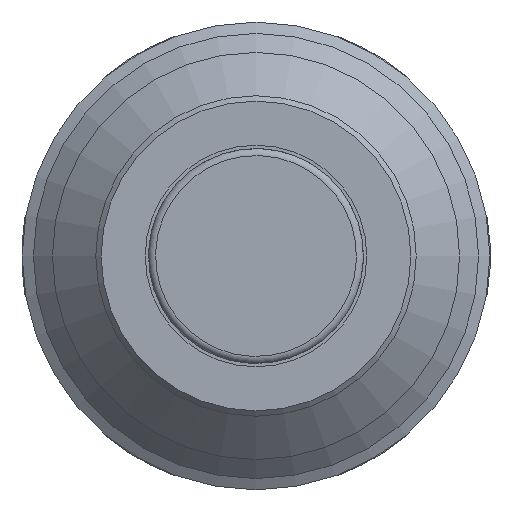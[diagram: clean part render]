
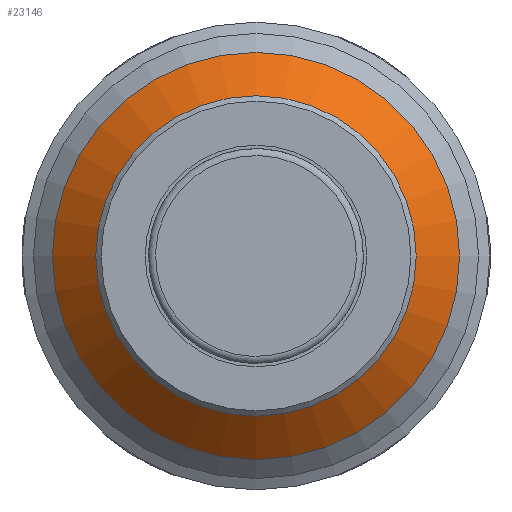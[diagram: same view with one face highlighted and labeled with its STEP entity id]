
A CAD part, front view. The second image highlights one B-rep face of the part: STEP entity #23146.
In plain terms, the highlighted conical face has half-angle 46.45 degrees and reference radius 17 mm.
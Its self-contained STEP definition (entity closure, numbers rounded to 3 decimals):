
#2392=CONICAL_SURFACE('',#24444,17.,0.811);
#2415=LINE('',#29008,#3858);
#3858=VECTOR('',#25507,17.);
#6732=FACE_OUTER_BOUND('',#7991,.T.);
#7991=EDGE_LOOP('',(#15732,#15733,#15734,#15735));
#9321=CIRCLE('',#24443,19.025);
#9322=CIRCLE('',#24445,14.975);
#9816=VERTEX_POINT('',#29003);
#9817=VERTEX_POINT('',#29007);
#12178=EDGE_CURVE('',#9816,#9816,#9321,.T.);
#12179=EDGE_CURVE('',#9816,#9817,#2415,.T.);
#12180=EDGE_CURVE('',#9817,#9817,#9322,.T.);
#15732=ORIENTED_EDGE('',*,*,#12178,.F.);
#15733=ORIENTED_EDGE('',*,*,#12179,.T.);
#15734=ORIENTED_EDGE('',*,*,#12180,.T.);
#15735=ORIENTED_EDGE('',*,*,#12179,.F.);
#23146=ADVANCED_FACE('',(#6732),#2392,.T.);
#24443=AXIS2_PLACEMENT_3D('',#29005,#25503,#25504);
#24444=AXIS2_PLACEMENT_3D('',#29006,#25505,#25506);
#24445=AXIS2_PLACEMENT_3D('',#29009,#25508,#25509);
#25503=DIRECTION('center_axis',(0.,1.,0.));
#25504=DIRECTION('ref_axis',(1.,0.,0.));
#25505=DIRECTION('center_axis',(0.,1.,0.));
#25506=DIRECTION('ref_axis',(-1.,0.,0.));
#25507=DIRECTION('',(-0.725,-0.689,0.));
#25508=DIRECTION('center_axis',(0.,1.,0.));
#25509=DIRECTION('ref_axis',(1.,0.,0.));
#29003=CARTESIAN_POINT('',(19.025,-8.15,0.));
#29005=CARTESIAN_POINT('Origin',(0.,-8.15,0.));
#29006=CARTESIAN_POINT('Origin',(0.,-10.075,0.));
#29007=CARTESIAN_POINT('',(14.975,-12.,0.));
#29008=CARTESIAN_POINT('',(17.,-10.075,0.));
#29009=CARTESIAN_POINT('Origin',(0.,-12.,0.));
